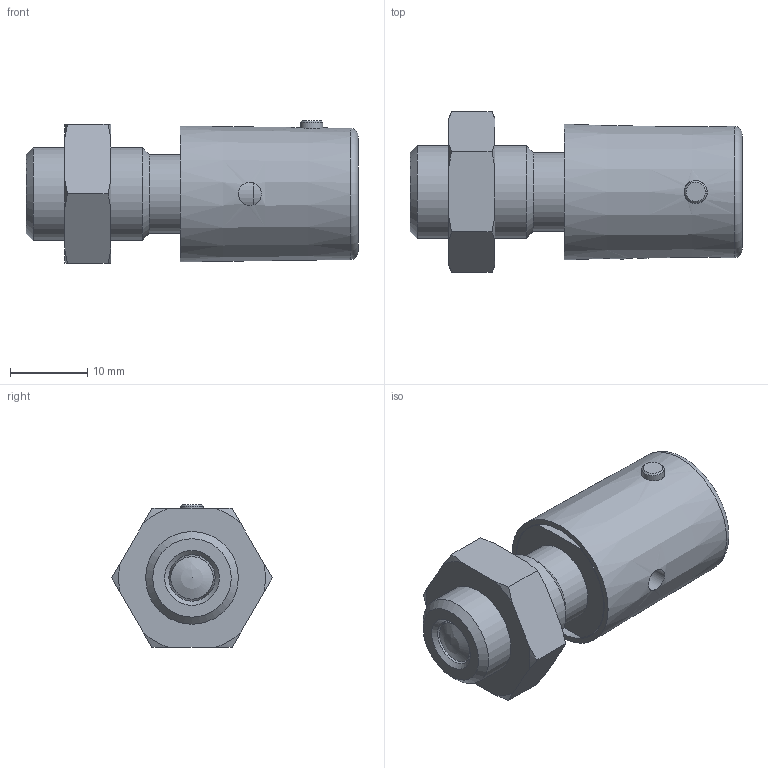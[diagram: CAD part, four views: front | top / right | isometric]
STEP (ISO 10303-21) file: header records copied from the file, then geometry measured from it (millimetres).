
FILE_DESCRIPTION( ( 'STEP AP203' ), '1' );
FILE_NAME( 'C:/Temp/Ganter_Step_05_03_2020/data/3_1/gn816/gn_816_bk/Locking plunger GN 816-6-M12x1,5-BK (activated).stp', '2020-03-12T08:56:01', ( 'License CC BY-ND 4.0' ), ( 'CADENAS' ), ' ', 'PARTsolutions', ' ' );
FILE_SCHEMA( ( 'CONFIG_CONTROL_DESIGN' ) );
Length unit declared in the file: millimetre
Products named in the file (4): Locking plunger GN 816-6-M12x1,5-BK (activated); _GN 816-6-M12x1,5-B(1)-b2; _GN 816-6-M12x1,5-Bb1; _Lock nut ISO 8675 GN 816-6-M12x1,5-AK
Assembly tree (3 placements, depth 2):
  Locking plunger GN 816-6-M12x1,5-BK (activated)
    _GN 816-6-M12x1,5-B(1)-b2
    _GN 816-6-M12x1,5-Bb1
    _Lock nut ISO 8675 GN 816-6-M12x1,5-AK
Bounding box: 43 x 20.78 x 18.5 mm (x, y, z)
Volume: 7281.2 mm3; surface area: 5780 mm2
Topology: 3 solids, 3 shells, 61 faces, 134 edges, 86 vertices
Faces by surface type: cone 23, plane 21, cylinder 14, torus 2, sphere 1
Full cylindrical faces by diameter (mm): 2.9 x2, 3 x2, 5.9 x1, 6 x2, 10.2 x1, 10.376 x1, 11.1 x1, 12 x1, 16.2 x1
Entity records: 1979 total; most frequent: CARTESIAN_POINT 624, DIRECTION 252, ORIENTED_EDGE 208, AXIS2_PLACEMENT_3D 113, EDGE_CURVE 104, EDGE_LOOP 102, VERTEX_POINT 83, FACE_OUTER_BOUND 75
